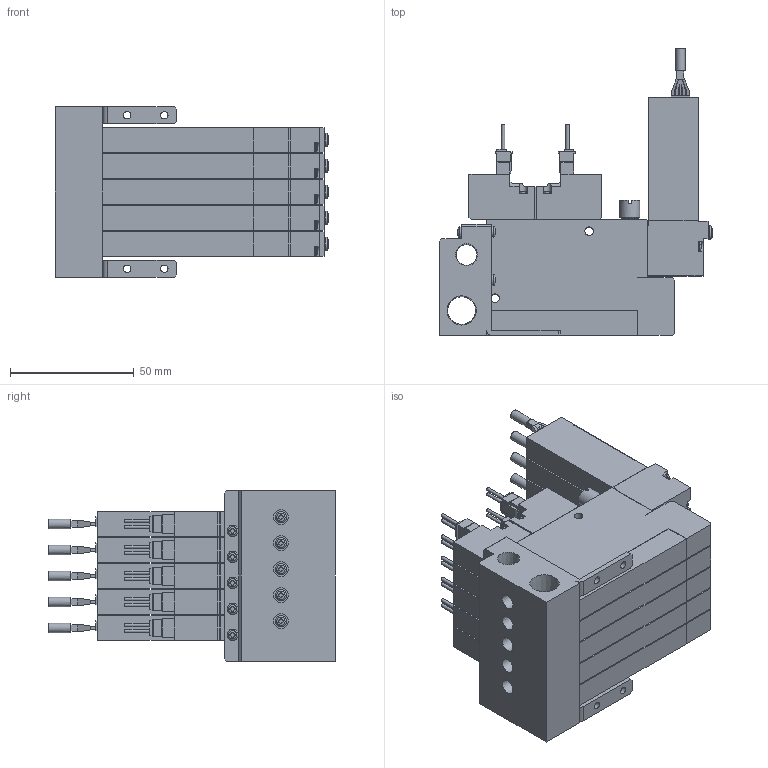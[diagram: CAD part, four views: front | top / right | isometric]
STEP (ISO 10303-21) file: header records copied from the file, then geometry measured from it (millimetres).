
FILE_DESCRIPTION(('STEP AP203'),'1');
FILE_NAME('V9C5SC505_3D.stp','2024-09-04T22:51:35',(' '),(' '),'Spatial InterOp 3D',' ',' ');
FILE_SCHEMA(('CONFIG_CONTROL_DESIGN'));
Length unit declared in the file: millimetre
Products named in the file (5): BSC1M※※V9C5SC505; Solenoid valve S; Pressure Sensor V9; Unit-C; BaseMC50R
Assembly tree (16 placements, depth 2):
  BSC1M※※V9C5SC505
    Solenoid valve S  x5
    Pressure Sensor V9  x5
    Unit-C  x5
    BaseMC50R
Bounding box: 110.35 x 115.8 x 69 mm (x, y, z)
Volume: 330848.1 mm3; surface area: 114278.7 mm2
Topology: 16 solids, 16 shells, 2172 faces, 5871 edges, 3870 vertices
Faces by surface type: plane 1677, cylinder 398, cone 39, torus 29, sphere 29
Full cylindrical faces by diameter (mm): 1.4 x20, 2.5 x10, 3 x24, 3.5 x40, 3.8 x5, 4 x5, 4.134 x10, 4.5 x14, 5.5 x10, 6 x5, 7 x10, 8 x5, 8.422 x1, 11.233 x1
Entity records: 20506 total; most frequent: CARTESIAN_POINT 4604, DIRECTION 3187, ORIENTED_EDGE 3084, EDGE_CURVE 1542, VERTEX_POINT 1083, AXIS2_PLACEMENT_3D 1063, LINE 1061, VECTOR 1061
